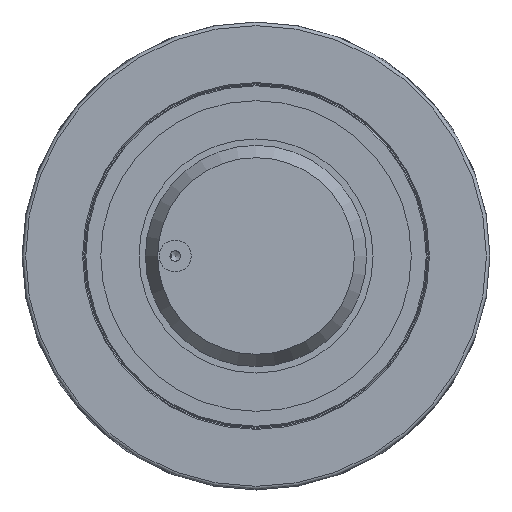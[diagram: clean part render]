
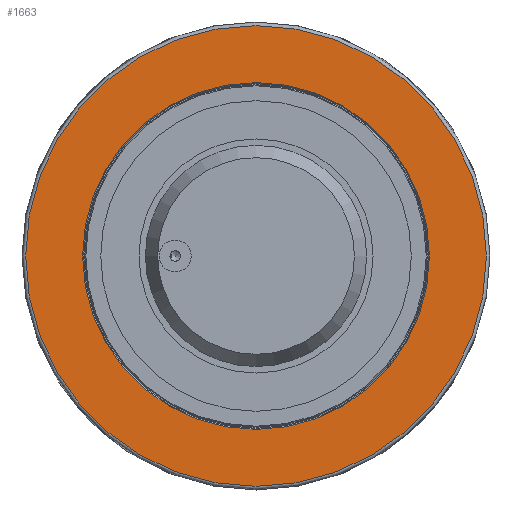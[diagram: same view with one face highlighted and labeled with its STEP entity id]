
A CAD part, left-side view. The second image highlights one B-rep face of the part: STEP entity #1663.
In plain terms, the highlighted planar face has unit normal (-1, 0, 0).
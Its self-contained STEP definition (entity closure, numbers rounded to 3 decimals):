
#58=FACE_BOUND('',#315,.T.);
#110=CIRCLE('',#1811,81.5);
#113=CIRCLE('',#1816,108.283);
#114=CIRCLE('',#1817,108.283);
#214=FACE_OUTER_BOUND('',#314,.T.);
#314=EDGE_LOOP('',(#1265,#1266));
#315=EDGE_LOOP('',(#1267));
#732=VERTEX_POINT('',#2670);
#735=VERTEX_POINT('',#2680);
#736=VERTEX_POINT('',#2681);
#932=EDGE_CURVE('',#732,#732,#110,.T.);
#937=EDGE_CURVE('',#735,#736,#113,.T.);
#938=EDGE_CURVE('',#736,#735,#114,.T.);
#1265=ORIENTED_EDGE('',*,*,#937,.F.);
#1266=ORIENTED_EDGE('',*,*,#938,.F.);
#1267=ORIENTED_EDGE('',*,*,#932,.F.);
#1592=PLANE('',#1815);
#1663=ADVANCED_FACE('',(#214,#58),#1592,.T.);
#1811=AXIS2_PLACEMENT_3D('',#2671,#2141,#2142);
#1815=AXIS2_PLACEMENT_3D('',#2679,#2151,#2152);
#1816=AXIS2_PLACEMENT_3D('',#2682,#2153,#2154);
#1817=AXIS2_PLACEMENT_3D('',#2683,#2155,#2156);
#2141=DIRECTION('center_axis',(-1.,0.,0.));
#2142=DIRECTION('ref_axis',(0.,0.,-1.));
#2151=DIRECTION('center_axis',(-1.,0.,0.));
#2152=DIRECTION('ref_axis',(0.,-1.,0.));
#2153=DIRECTION('center_axis',(1.,0.,0.));
#2154=DIRECTION('ref_axis',(0.,0.,-1.));
#2155=DIRECTION('center_axis',(1.,0.,0.));
#2156=DIRECTION('ref_axis',(0.,0.,-1.));
#2670=CARTESIAN_POINT('',(-31.869,-2.09,88.823));
#2671=CARTESIAN_POINT('Origin',(-31.869,-2.09,7.323));
#2679=CARTESIAN_POINT('Origin',(-31.869,-2.09,102.702));
#2680=CARTESIAN_POINT('',(-31.869,-2.09,115.607));
#2681=CARTESIAN_POINT('',(-31.869,-110.373,7.323));
#2682=CARTESIAN_POINT('Origin',(-31.869,-2.09,7.323));
#2683=CARTESIAN_POINT('Origin',(-31.869,-2.09,7.323));
